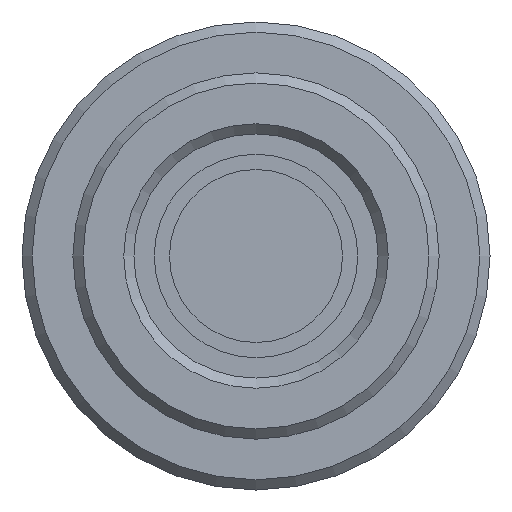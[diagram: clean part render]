
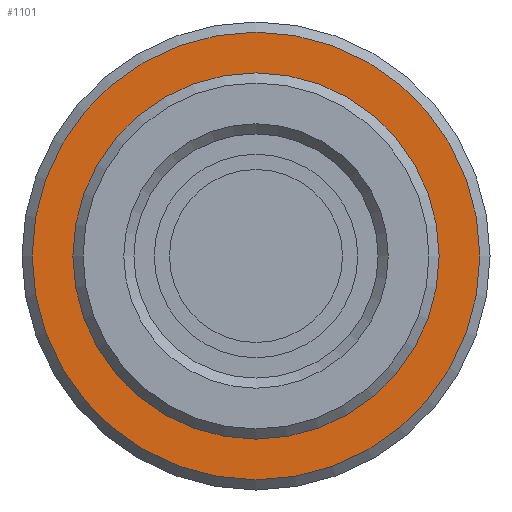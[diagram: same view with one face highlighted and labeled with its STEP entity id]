
A CAD part, front view. The second image highlights one B-rep face of the part: STEP entity #1101.
In plain terms, the highlighted planar face has unit normal (0, -1, 0).
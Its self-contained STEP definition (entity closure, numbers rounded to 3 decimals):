
#188=FACE_BOUND('',#299,.T.);
#200=PLANE('',#1212);
#228=FACE_OUTER_BOUND('',#298,.T.);
#298=EDGE_LOOP('',(#801));
#299=EDGE_LOOP('',(#802,#803));
#382=CIRCLE('',#1203,9.);
#383=CIRCLE('',#1204,9.);
#384=CIRCLE('',#1206,11.);
#478=VERTEX_POINT('',#1763);
#479=VERTEX_POINT('',#1765);
#480=VERTEX_POINT('',#1769);
#602=EDGE_CURVE('',#478,#479,#382,.T.);
#603=EDGE_CURVE('',#479,#478,#383,.T.);
#604=EDGE_CURVE('',#480,#480,#384,.T.);
#801=ORIENTED_EDGE('',*,*,#604,.F.);
#802=ORIENTED_EDGE('',*,*,#603,.F.);
#803=ORIENTED_EDGE('',*,*,#602,.F.);
#1101=ADVANCED_FACE('',(#228,#188),#200,.T.);
#1203=AXIS2_PLACEMENT_3D('',#1766,#1397,#1398);
#1204=AXIS2_PLACEMENT_3D('',#1767,#1399,#1400);
#1206=AXIS2_PLACEMENT_3D('',#1770,#1403,#1404);
#1212=AXIS2_PLACEMENT_3D('',#1782,#1417,#1418);
#1397=DIRECTION('center_axis',(0.,-1.,0.));
#1398=DIRECTION('ref_axis',(1.,0.,0.));
#1399=DIRECTION('center_axis',(0.,-1.,0.));
#1400=DIRECTION('ref_axis',(1.,0.,0.));
#1403=DIRECTION('center_axis',(0.,1.,0.));
#1404=DIRECTION('ref_axis',(-1.,0.,0.));
#1417=DIRECTION('center_axis',(0.,-1.,0.));
#1418=DIRECTION('ref_axis',(0.,0.,-1.));
#1763=CARTESIAN_POINT('',(-9.,5.,0.));
#1765=CARTESIAN_POINT('',(9.,5.,0.));
#1766=CARTESIAN_POINT('Origin',(0.,5.,0.));
#1767=CARTESIAN_POINT('Origin',(0.,5.,0.));
#1769=CARTESIAN_POINT('',(11.,5.,0.));
#1770=CARTESIAN_POINT('Origin',(0.,5.,0.));
#1782=CARTESIAN_POINT('Origin',(9.,5.,0.));
